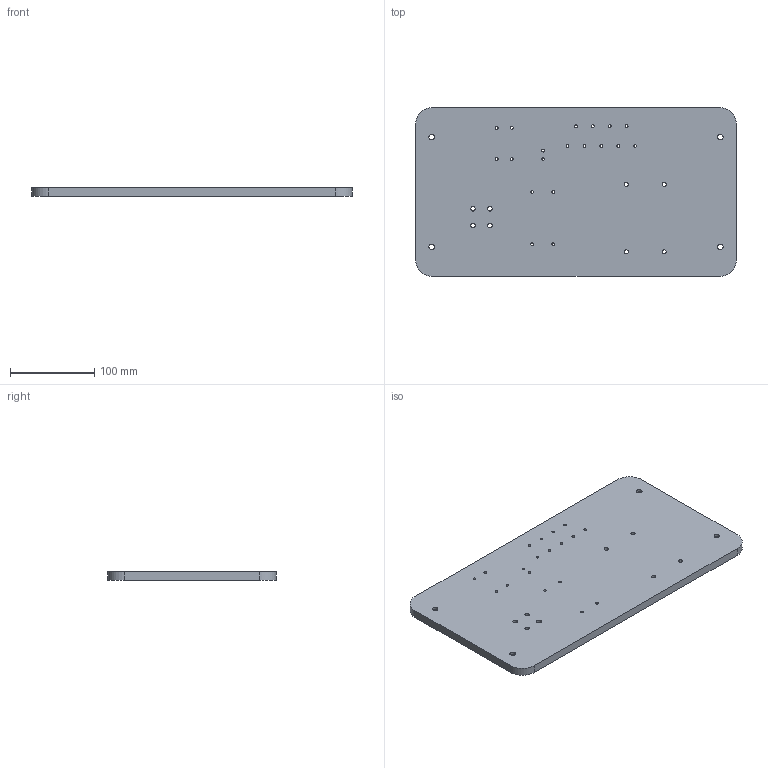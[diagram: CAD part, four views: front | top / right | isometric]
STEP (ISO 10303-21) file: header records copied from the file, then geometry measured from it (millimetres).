
FILE_DESCRIPTION (( 'STEP AP214' ), '1' );
FILE_NAME ('GZ27.02_V1µ××ù.STEP', '2021-04-11T11:09:05', ( 'hp' ), ( '' ), 'SwSTEP 2.0', 'SolidWorks 2017', '' );
FILE_SCHEMA (( 'AUTOMOTIVE_DESIGN' ));
Length unit declared in the file: millimetre
Products named in the file (1): GZ27.02_V1菁釱
Bounding box: 380 x 200 x 10 mm (x, y, z)
Volume: 749045.4 mm3; surface area: 166415.2 mm2
Topology: 1 solids, 1 shells, 96 faces, 258 edges, 172 vertices
Faces by surface type: cylinder 82, plane 14
Entity records: 3770 total; most frequent: DIRECTION 616, CARTESIAN_POINT 527, ORIENTED_EDGE 516, AXIS2_PLACEMENT_3D 261, EDGE_CURVE 258, VERTEX_POINT 172, EDGE_LOOP 166, CIRCLE 164
